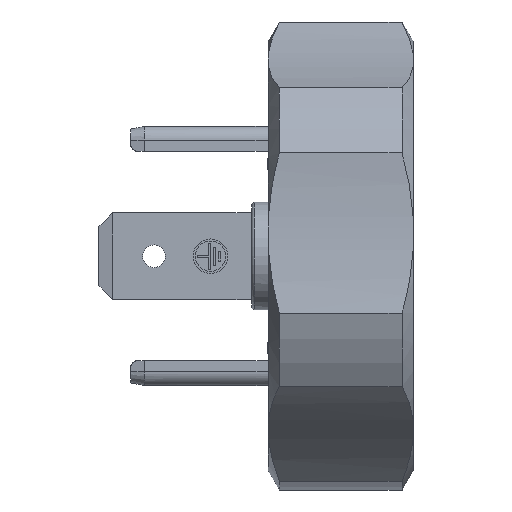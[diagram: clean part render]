
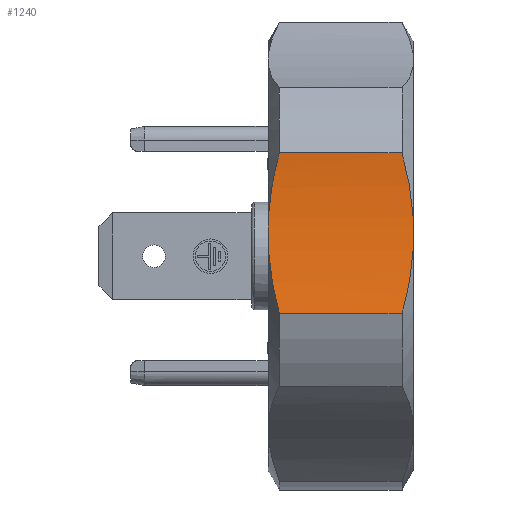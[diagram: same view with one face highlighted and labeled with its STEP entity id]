
A CAD part, top view. The second image highlights one B-rep face of the part: STEP entity #1240.
In plain terms, the highlighted cylindrical face has radius 41.5 mm (diameter 83 mm), a partial arc.
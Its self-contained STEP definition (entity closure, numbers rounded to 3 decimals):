
#246=CYLINDRICAL_SURFACE('',#10999,41.5);
#540=CIRCLE('',#10924,41.5);
#581=CIRCLE('',#10972,41.5);
#960=B_SPLINE_CURVE_WITH_KNOTS('',3,(#15568,#15569,#15570,#15571),
 .UNSPECIFIED.,.F.,.F.,(4,4),(0.,1.),.UNSPECIFIED.);
#962=B_SPLINE_CURVE_WITH_KNOTS('',3,(#15577,#15578,#15579,#15580),
 .UNSPECIFIED.,.F.,.F.,(4,4),(0.,1.),.UNSPECIFIED.);
#963=B_SPLINE_CURVE_WITH_KNOTS('',3,(#15591,#15592,#15593,#15594),
 .UNSPECIFIED.,.F.,.F.,(4,4),(0.,1.),.UNSPECIFIED.);
#965=B_SPLINE_CURVE_WITH_KNOTS('',3,(#15600,#15601,#15602,#15603),
 .UNSPECIFIED.,.F.,.F.,(4,4),(0.,1.),.UNSPECIFIED.);
#1240=ADVANCED_FACE('',(#2163),#246,.F.);
#2163=FACE_OUTER_BOUND('',#2732,.T.);
#2732=EDGE_LOOP('',(#3664,#3665,#3666,#3667,#3668,#3669,#3670,#3671));
#3664=ORIENTED_EDGE('',*,*,#7736,.F.);
#3665=ORIENTED_EDGE('',*,*,#7740,.F.);
#3666=ORIENTED_EDGE('',*,*,#7730,.T.);
#3667=ORIENTED_EDGE('',*,*,#7747,.F.);
#3668=ORIENTED_EDGE('',*,*,#7742,.F.);
#3669=ORIENTED_EDGE('',*,*,#7745,.F.);
#3670=ORIENTED_EDGE('',*,*,#7629,.F.);
#3671=ORIENTED_EDGE('',*,*,#7738,.F.);
#6604=VERTEX_POINT('',#15029);
#6605=VERTEX_POINT('',#15031);
#6694=VERTEX_POINT('',#15548);
#6695=VERTEX_POINT('',#15550);
#6697=VERTEX_POINT('',#15556);
#6700=VERTEX_POINT('',#15561);
#6702=VERTEX_POINT('',#15584);
#6703=VERTEX_POINT('',#15586);
#7629=EDGE_CURVE('',#6604,#6605,#540,.T.);
#7730=EDGE_CURVE('',#6695,#6694,#581,.T.);
#7736=EDGE_CURVE('',#6700,#6697,#9206,.T.);
#7738=EDGE_CURVE('',#6697,#6604,#960,.T.);
#7740=EDGE_CURVE('',#6695,#6700,#962,.T.);
#7742=EDGE_CURVE('',#6702,#6703,#9207,.T.);
#7745=EDGE_CURVE('',#6605,#6702,#963,.T.);
#7747=EDGE_CURVE('',#6703,#6694,#965,.T.);
#9206=LINE('',#15562,#10081);
#9207=LINE('',#15585,#10082);
#10081=VECTOR('',#12187,1.);
#10082=VECTOR('',#12196,1.);
#10924=AXIS2_PLACEMENT_3D('',#15030,#12057,#12058);
#10972=AXIS2_PLACEMENT_3D('',#15549,#12174,#12175);
#10999=AXIS2_PLACEMENT_3D('',#15666,#12236,#12237);
#12057=DIRECTION('',(1.,0.,0.));
#12058=DIRECTION('',(0.,0.103,0.995));
#12174=DIRECTION('',(1.,0.,0.));
#12175=DIRECTION('',(0.,0.103,0.995));
#12187=DIRECTION('',(-1.,0.,0.));
#12196=DIRECTION('',(1.,0.,0.));
#12236=DIRECTION('',(-1.,0.,0.));
#12237=DIRECTION('',(0.,-0.103,-0.995));
#15029=CARTESIAN_POINT('',(0.,0.404,15.609));
#15030=CARTESIAN_POINT('',(0.,5.883,56.746));
#15031=CARTESIAN_POINT('',(0.,2.807,15.36));
#15548=CARTESIAN_POINT('',(10.5,2.807,15.36));
#15549=CARTESIAN_POINT('',(10.5,5.883,56.746));
#15550=CARTESIAN_POINT('',(10.5,0.404,15.609));
#15556=CARTESIAN_POINT('',(0.8,-4.167,16.481));
#15561=CARTESIAN_POINT('',(9.7,-4.167,16.481));
#15562=CARTESIAN_POINT('',(5.25,-4.167,16.481));
#15568=CARTESIAN_POINT('',(0.8,-4.167,16.481));
#15569=CARTESIAN_POINT('',(0.383,-2.685,16.111));
#15570=CARTESIAN_POINT('',(0.097,-1.165,15.818));
#15571=CARTESIAN_POINT('',(0.,0.404,15.609));
#15577=CARTESIAN_POINT('',(10.5,0.404,15.609));
#15578=CARTESIAN_POINT('',(10.403,-1.165,15.818));
#15579=CARTESIAN_POINT('',(10.117,-2.685,16.111));
#15580=CARTESIAN_POINT('',(9.7,-4.167,16.481));
#15584=CARTESIAN_POINT('',(0.8,7.46,15.276));
#15585=CARTESIAN_POINT('',(5.25,7.46,15.276));
#15586=CARTESIAN_POINT('',(9.7,7.46,15.276));
#15591=CARTESIAN_POINT('',(0.,2.807,15.36));
#15592=CARTESIAN_POINT('',(0.097,4.385,15.243));
#15593=CARTESIAN_POINT('',(0.383,5.933,15.218));
#15594=CARTESIAN_POINT('',(0.8,7.46,15.276));
#15600=CARTESIAN_POINT('',(9.7,7.46,15.276));
#15601=CARTESIAN_POINT('',(10.117,5.933,15.218));
#15602=CARTESIAN_POINT('',(10.403,4.385,15.243));
#15603=CARTESIAN_POINT('',(10.5,2.807,15.36));
#15666=CARTESIAN_POINT('',(10.5,5.883,56.746));
